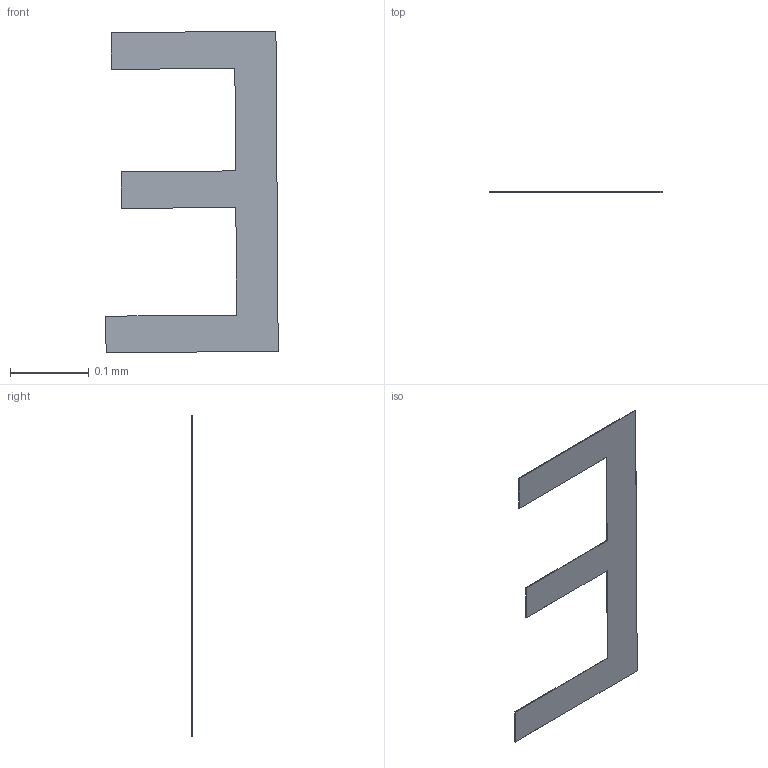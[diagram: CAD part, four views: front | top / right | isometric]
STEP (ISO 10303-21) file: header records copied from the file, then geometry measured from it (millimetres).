
FILE_DESCRIPTION(/* description */ ('STEP AP242 Edition 2','CAx-IF Rec.Pracs.---Representation and Presentation of Product Manufacturing Information (PMI)---4.0---2014-10-13','CAx-IF Rec.Pracs.---3D Tessellated Geometry---0.4---2014-09-14','2;1','CAx-IF Rec.Pracs.---User Defined Attributes---1.5---2016-08-15'),/* implementation_level */ '2;1');
FILE_NAME(/* name */ 'Assembly 1 - SW-TH_EC11E18244A5~SW-TH_EC11E18244A5-L11.7-W12.0-H24.5-P2.5-LS14.5~nxQB (5)',/* time_stamp */ '2026-04-02T09:55:29Z',/* author */ (''),/* organization */ (''),/* preprocessor_version */ 'ST-DEVELOPER v20',/* originating_system */ 'ONSHAPE BY PTC INC, 1.212',/* authorisation */ ' ');
FILE_SCHEMA (('AP242_MANAGED_MODEL_BASED_3D_ENGINEERING_MIM_LF { 1 0 10303 442 3 1 4 }'));
Length unit declared in the file: metre
Products named in the file (1): SW-TH_EC11E18244A5~SW-TH_EC11E18244A5-L11.7-W12.0-H24.5-P2.5-LS14.5~n
xQB
Bounding box: 0.22 x 0 x 0.41 mm (x, y, z)
Volume: 0 mm3; surface area: 0.1 mm2
Topology: 1 solids, 1 shells, 14 faces, 36 edges, 24 vertices
Faces by surface type: plane 14
Entity records: 541 total; most frequent: CARTESIAN_POINT 75, ORIENTED_EDGE 72, DIRECTION 66, EDGE_CURVE 36, LINE 36, VECTOR 36, VERTEX_POINT 24, PRESENTATION_STYLE_ASSIGNMENT 15
